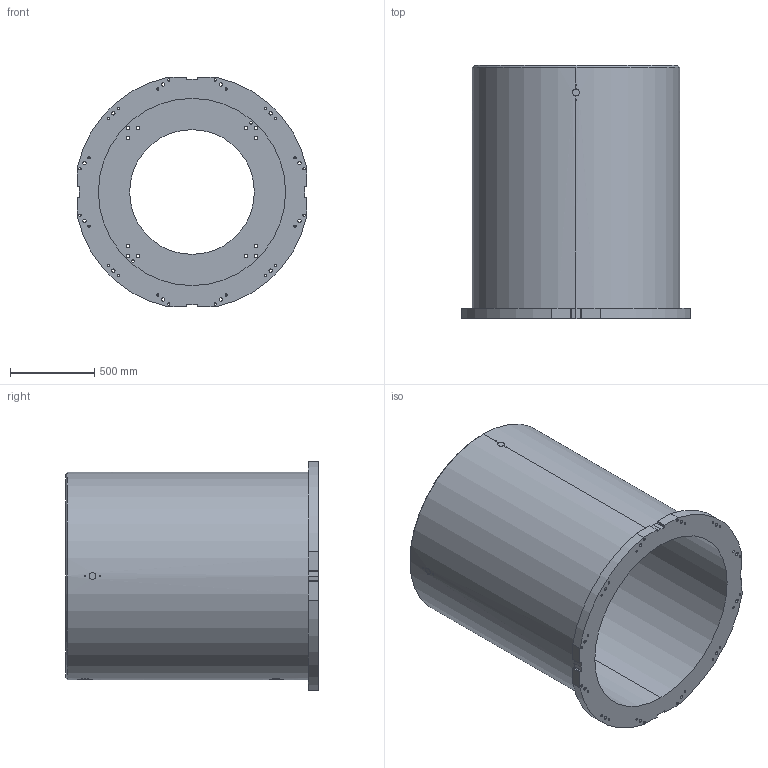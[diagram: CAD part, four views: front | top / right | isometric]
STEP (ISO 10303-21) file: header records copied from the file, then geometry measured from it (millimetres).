
FILE_DESCRIPTION (( 'STEP AP214' ), '1' );
FILE_NAME ('T-1500.STEP', '2024-01-24T12:53:17', ( '' ), ( '' ), 'SwSTEP 2.0', 'SolidWorks 2022', '' );
FILE_SCHEMA (( 'AUTOMOTIVE_DESIGN' ));
Length unit declared in the file: millimetre
Products named in the file (1): T-1500
Bounding box: 1360 x 1500 x 1360 mm (x, y, z)
Volume: 378858309.6 mm3; surface area: 13256093.1 mm2
Topology: 1 solids, 1 shells, 235 faces, 641 edges, 420 vertices
Faces by surface type: cylinder 181, plane 28, bspline 24, cone 2
Entity records: 13411 total; most frequent: CARTESIAN_POINT 6200, ORIENTED_EDGE 1282, DIRECTION 1177, EDGE_CURVE 641, AXIS2_PLACEMENT_3D 466, VERTEX_POINT 420, EDGE_LOOP 349, CIRCLE 254
